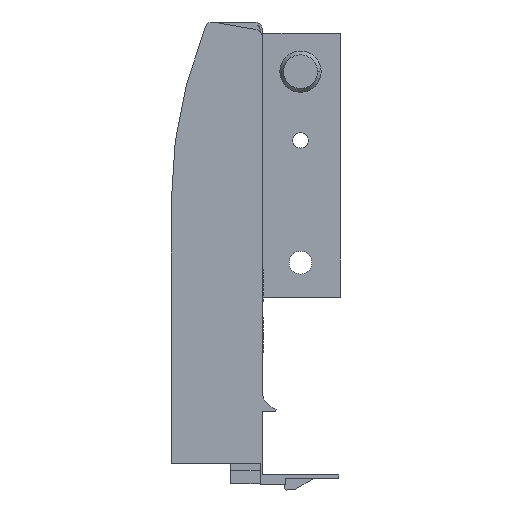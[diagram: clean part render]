
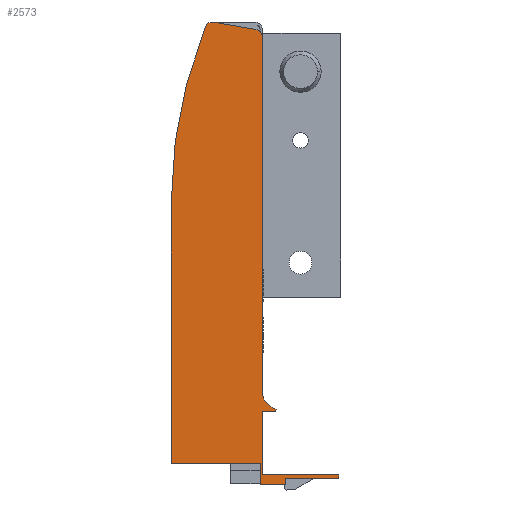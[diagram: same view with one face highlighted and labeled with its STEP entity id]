
A CAD part, front view. The second image highlights one B-rep face of the part: STEP entity #2573.
In plain terms, the highlighted planar face has unit normal (0, -1, 0).
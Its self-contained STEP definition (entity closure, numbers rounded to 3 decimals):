
#137 = CARTESIAN_POINT ( 'NONE',  ( 41.499, 0., -16.5 ) ) ;
#150 = CARTESIAN_POINT ( 'NONE',  ( 41.499, 0., -17.528 ) ) ;
#152 = CARTESIAN_POINT ( 'NONE',  ( 6.648, 0., 100.756 ) ) ;
#161 = CARTESIAN_POINT ( 'NONE',  ( -2.3, 0., 55.168 ) ) ;
#164 = CARTESIAN_POINT ( 'NONE',  ( 27.599, 0., -19.1 ) ) ;
#175 = CARTESIAN_POINT ( 'NONE',  ( 27.599, 0., -17.528 ) ) ;
#185 = CARTESIAN_POINT ( 'NONE',  ( 19.847, 0., 100.03 ) ) ;
#186 = CARTESIAN_POINT ( 'NONE',  ( 21.5, 0., -16.5 ) ) ;
#189 = CARTESIAN_POINT ( 'NONE',  ( 20.9, 0., -19.1 ) ) ;
#191 = CARTESIAN_POINT ( 'NONE',  ( 21.5, 0., 0. ) ) ;
#196 = CARTESIAN_POINT ( 'NONE',  ( 20.9, 0., -13.5 ) ) ;
#208 = CARTESIAN_POINT ( 'NONE',  ( 25., 0., 0. ) ) ;
#214 = CARTESIAN_POINT ( 'NONE',  ( 8.847, 0., 101.97 ) ) ;
#215 = CARTESIAN_POINT ( 'NONE',  ( 25.161, 0., 0.578 ) ) ;
#217 = CARTESIAN_POINT ( 'NONE',  ( -2.3, 0., -13.5 ) ) ;
#227 = CARTESIAN_POINT ( 'NONE',  ( 21.5, 0., 5.395 ) ) ;
#230 = CARTESIAN_POINT ( 'NONE',  ( 21.5, 0., 98.06 ) ) ;
#266 = CARTESIAN_POINT ( 'NONE',  ( 41.499, 0., -17.528 ) ) ;
#269 = DIRECTION ( 'NONE',  ( -1., 0., 0. ) ) ;
#337 = CARTESIAN_POINT ( 'NONE',  ( 118.3, 0., 55.168 ) ) ;
#338 = DIRECTION ( 'NONE',  ( 0., 1., 0. ) ) ;
#339 = DIRECTION ( 'NONE',  ( -1., 0., 0. ) ) ;
#347 = CARTESIAN_POINT ( 'NONE',  ( 25., 0., 0. ) ) ;
#352 = DIRECTION ( 'NONE',  ( -1., 0., 0. ) ) ;
#392 = CARTESIAN_POINT ( 'NONE',  ( 25.161, 0., 0.578 ) ) ;
#405 = DIRECTION ( 'NONE',  ( -0.268, 0., -0.963 ) ) ;
#406 = CARTESIAN_POINT ( 'NONE',  ( 26.5, 0., 5.395 ) ) ;
#407 = DIRECTION ( 'NONE',  ( 0., -1., 0. ) ) ;
#408 = DIRECTION ( 'NONE',  ( -1., 0., 0. ) ) ;
#420 = CARTESIAN_POINT ( 'NONE',  ( 41.499, 0., -16.5 ) ) ;
#424 = DIRECTION ( 'NONE',  ( 0., 0., -1. ) ) ;
#450 = CARTESIAN_POINT ( 'NONE',  ( -2.3, 0., -13.5 ) ) ;
#451 = DIRECTION ( 'NONE',  ( -1., 0., 0. ) ) ;
#474 = CARTESIAN_POINT ( 'NONE',  ( 21.5, 0., 0. ) ) ;
#475 = DIRECTION ( 'NONE',  ( 0., 0., -1. ) ) ;
#492 = CARTESIAN_POINT ( 'NONE',  ( 8.5, 0., 100. ) ) ;
#497 = DIRECTION ( 'NONE',  ( 0., 1., 0. ) ) ;
#498 = DIRECTION ( 'NONE',  ( -1., 0., 0. ) ) ;
#508 = CARTESIAN_POINT ( 'NONE',  ( 19.5, 0., 98.06 ) ) ;
#512 = DIRECTION ( 'NONE',  ( 0., 1., 0. ) ) ;
#513 = DIRECTION ( 'NONE',  ( -1., 0., 0. ) ) ;
#527 = CARTESIAN_POINT ( 'NONE',  ( 27.599, 0., -17.528 ) ) ;
#528 = DIRECTION ( 'NONE',  ( 0., 0., -1. ) ) ;
#538 = CARTESIAN_POINT ( 'NONE',  ( -2.3, 0., -13.5 ) ) ;
#539 = DIRECTION ( 'NONE',  ( 0., 0., 1. ) ) ;
#658 = CARTESIAN_POINT ( 'NONE',  ( 8.847, 0., 101.97 ) ) ;
#659 = DIRECTION ( 'NONE',  ( 0.985, 0., -0.174 ) ) ;
#683 = CARTESIAN_POINT ( 'NONE',  ( 21.5, 0., -16.5 ) ) ;
#684 = DIRECTION ( 'NONE',  ( 1., 0., 0. ) ) ;
#687 = CARTESIAN_POINT ( 'NONE',  ( 21.5, 0., 98.06 ) ) ;
#697 = DIRECTION ( 'NONE',  ( 0., 0., -1. ) ) ;
#715 = CARTESIAN_POINT ( 'NONE',  ( 20.9, 0., -19.1 ) ) ;
#716 = DIRECTION ( 'NONE',  ( 0., 0., 1. ) ) ;
#744 = CARTESIAN_POINT ( 'NONE',  ( 27.599, 0., -19.1 ) ) ;
#745 = DIRECTION ( 'NONE',  ( -1., 0., 0. ) ) ;
#793 = PLANE ( 'NONE',  #1889 ) ;
#796 = CARTESIAN_POINT ( 'NONE',  ( 8.75, 0., 61.5 ) ) ;
#802 = DIRECTION ( 'NONE',  ( 0., 1., 0. ) ) ;
#803 = DIRECTION ( 'NONE',  ( 0., 0., 1. ) ) ;
#890 = LINE ( 'NONE', #266, #953 ) ;
#907 = LINE ( 'NONE', #347, #925 ) ;
#918 = CIRCLE ( 'NONE', #2117, 120.6 ) ;
#925 = VECTOR ( 'NONE', #352, 1000. ) ;
#951 = VECTOR ( 'NONE', #405, 1000. ) ;
#953 = VECTOR ( 'NONE', #269, 1000. ) ;
#955 = LINE ( 'NONE', #450, #1062 ) ;
#972 = VECTOR ( 'NONE', #475, 1000. ) ;
#990 = CIRCLE ( 'NONE', #2164, 5. ) ;
#1001 = LINE ( 'NONE', #420, #1038 ) ;
#1038 = VECTOR ( 'NONE', #424, 1000. ) ;
#1045 = LINE ( 'NONE', #392, #951 ) ;
#1059 = LINE ( 'NONE', #474, #972 ) ;
#1062 = VECTOR ( 'NONE', #451, 1000. ) ;
#1154 = CIRCLE ( 'NONE', #2058, 2. ) ;
#1155 = VECTOR ( 'NONE', #659, 1000. ) ;
#1175 = VECTOR ( 'NONE', #539, 1000. ) ;
#1218 = CIRCLE ( 'NONE', #2024, 2. ) ;
#1229 = LINE ( 'NONE', #527, #1255 ) ;
#1230 = LINE ( 'NONE', #538, #1175 ) ;
#1242 = LINE ( 'NONE', #658, #1155 ) ;
#1255 = VECTOR ( 'NONE', #528, 1000. ) ;
#1541 = VERTEX_POINT ( 'NONE', #137 ) ;
#1554 = VERTEX_POINT ( 'NONE', #150 ) ;
#1556 = VERTEX_POINT ( 'NONE', #152 ) ;
#1565 = VERTEX_POINT ( 'NONE', #161 ) ;
#1568 = VERTEX_POINT ( 'NONE', #164 ) ;
#1580 = VERTEX_POINT ( 'NONE', #175 ) ;
#1593 = VERTEX_POINT ( 'NONE', #185 ) ;
#1594 = VERTEX_POINT ( 'NONE', #186 ) ;
#1597 = VERTEX_POINT ( 'NONE', #189 ) ;
#1599 = VERTEX_POINT ( 'NONE', #191 ) ;
#1604 = VERTEX_POINT ( 'NONE', #196 ) ;
#1616 = VERTEX_POINT ( 'NONE', #208 ) ;
#1622 = VERTEX_POINT ( 'NONE', #214 ) ;
#1623 = VERTEX_POINT ( 'NONE', #215 ) ;
#1625 = VERTEX_POINT ( 'NONE', #217 ) ;
#1635 = VERTEX_POINT ( 'NONE', #227 ) ;
#1638 = VERTEX_POINT ( 'NONE', #230 ) ;
#1645 = LINE ( 'NONE', #683, #1652 ) ;
#1651 = LINE ( 'NONE', #687, #1667 ) ;
#1652 = VECTOR ( 'NONE', #684, 1000. ) ;
#1654 = VECTOR ( 'NONE', #716, 1000. ) ;
#1660 = LINE ( 'NONE', #715, #1654 ) ;
#1667 = VECTOR ( 'NONE', #697, 1000. ) ;
#1692 = LINE ( 'NONE', #744, #1699 ) ;
#1699 = VECTOR ( 'NONE', #745, 1000. ) ;
#1726 = FACE_OUTER_BOUND ( 'NONE', #2241, .T. ) ;
#1852 = EDGE_CURVE ( 'NONE', #1554, #1580, #890, .T. ) ;
#1889 = AXIS2_PLACEMENT_3D ( 'NONE', #796, #802, #803 ) ;
#1907 = EDGE_CURVE ( 'NONE', #1565, #1556, #918, .T. ) ;
#1916 = EDGE_CURVE ( 'NONE', #1616, #1599, #907, .T. ) ;
#1947 = EDGE_CURVE ( 'NONE', #1623, #1616, #1045, .T. ) ;
#1948 = EDGE_CURVE ( 'NONE', #1635, #1623, #990, .T. ) ;
#1961 = EDGE_CURVE ( 'NONE', #1541, #1554, #1001, .T. ) ;
#1975 = EDGE_CURVE ( 'NONE', #1604, #1625, #955, .T. ) ;
#1991 = EDGE_CURVE ( 'NONE', #1599, #1594, #1059, .T. ) ;
#2008 = EDGE_CURVE ( 'NONE', #1556, #1622, #1154, .T. ) ;
#2016 = EDGE_CURVE ( 'NONE', #1593, #1638, #1218, .T. ) ;
#2024 = AXIS2_PLACEMENT_3D ( 'NONE', #508, #512, #513 ) ;
#2025 = EDGE_CURVE ( 'NONE', #1580, #1568, #1229, .T. ) ;
#2031 = EDGE_CURVE ( 'NONE', #1625, #1565, #1230, .T. ) ;
#2058 = AXIS2_PLACEMENT_3D ( 'NONE', #492, #497, #498 ) ;
#2111 = EDGE_CURVE ( 'NONE', #1622, #1593, #1242, .T. ) ;
#2117 = AXIS2_PLACEMENT_3D ( 'NONE', #337, #338, #339 ) ;
#2127 = EDGE_CURVE ( 'NONE', #1594, #1541, #1645, .T. ) ;
#2136 = EDGE_CURVE ( 'NONE', #1638, #1635, #1651, .T. ) ;
#2150 = EDGE_CURVE ( 'NONE', #1597, #1604, #1660, .T. ) ;
#2164 = AXIS2_PLACEMENT_3D ( 'NONE', #406, #407, #408 ) ;
#2166 = EDGE_CURVE ( 'NONE', #1568, #1597, #1692, .T. ) ;
#2205 = ORIENTED_EDGE ( 'NONE', *, *, #2166, .F. ) ;
#2217 = ORIENTED_EDGE ( 'NONE', *, *, #2136, .F. ) ;
#2228 = ORIENTED_EDGE ( 'NONE', *, *, #2111, .F. ) ;
#2241 = EDGE_LOOP ( 'NONE', ( #2217, #2306, #2228, #2521, #2457, #2456, #2248, #2253, #2205, #2486, #2407, #2466, #2339, #2367, #2391, #2440, #2505 ) ) ;
#2248 = ORIENTED_EDGE ( 'NONE', *, *, #1975, .F. ) ;
#2253 = ORIENTED_EDGE ( 'NONE', *, *, #2150, .F. ) ;
#2306 = ORIENTED_EDGE ( 'NONE', *, *, #2016, .F. ) ;
#2339 = ORIENTED_EDGE ( 'NONE', *, *, #2127, .F. ) ;
#2367 = ORIENTED_EDGE ( 'NONE', *, *, #1991, .F. ) ;
#2391 = ORIENTED_EDGE ( 'NONE', *, *, #1916, .F. ) ;
#2407 = ORIENTED_EDGE ( 'NONE', *, *, #1852, .F. ) ;
#2440 = ORIENTED_EDGE ( 'NONE', *, *, #1947, .F. ) ;
#2456 = ORIENTED_EDGE ( 'NONE', *, *, #2031, .F. ) ;
#2457 = ORIENTED_EDGE ( 'NONE', *, *, #1907, .F. ) ;
#2466 = ORIENTED_EDGE ( 'NONE', *, *, #1961, .F. ) ;
#2486 = ORIENTED_EDGE ( 'NONE', *, *, #2025, .F. ) ;
#2505 = ORIENTED_EDGE ( 'NONE', *, *, #1948, .F. ) ;
#2521 = ORIENTED_EDGE ( 'NONE', *, *, #2008, .F. ) ;
#2573 = ADVANCED_FACE ( 'NONE', ( #1726 ), #793, .F. ) ;
